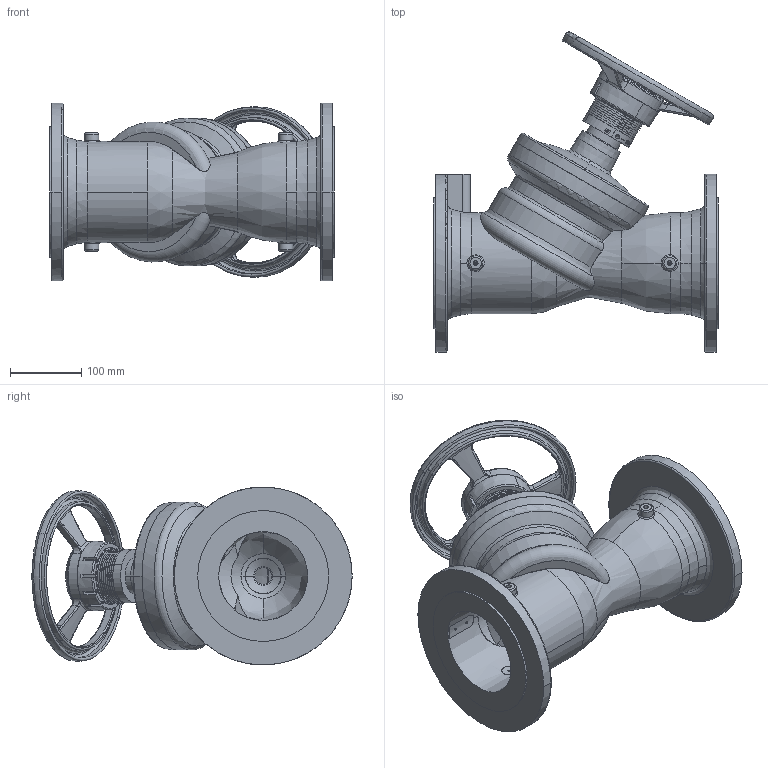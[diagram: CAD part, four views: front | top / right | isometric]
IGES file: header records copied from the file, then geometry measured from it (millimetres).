
Global section: file name: No Iges File Name specified; native system: AutoDesk Inventor R12.0; preprocessor: AutoDesk Inventor Iges Exporter R12.0; date: 20110228.091419; units: millimetre
Bounding box: 400 x 450.07 x 250 mm (x, y, z)
Volume: 6621630.5 mm3; surface area: 698472.3 mm2
Topology: 1 solids, 2 shells, 950 faces, 2512 edges, 1610 vertices
Faces by surface type: bspline 346, plane 320, cylinder 102, revolution 88, torus 58, cone 36
